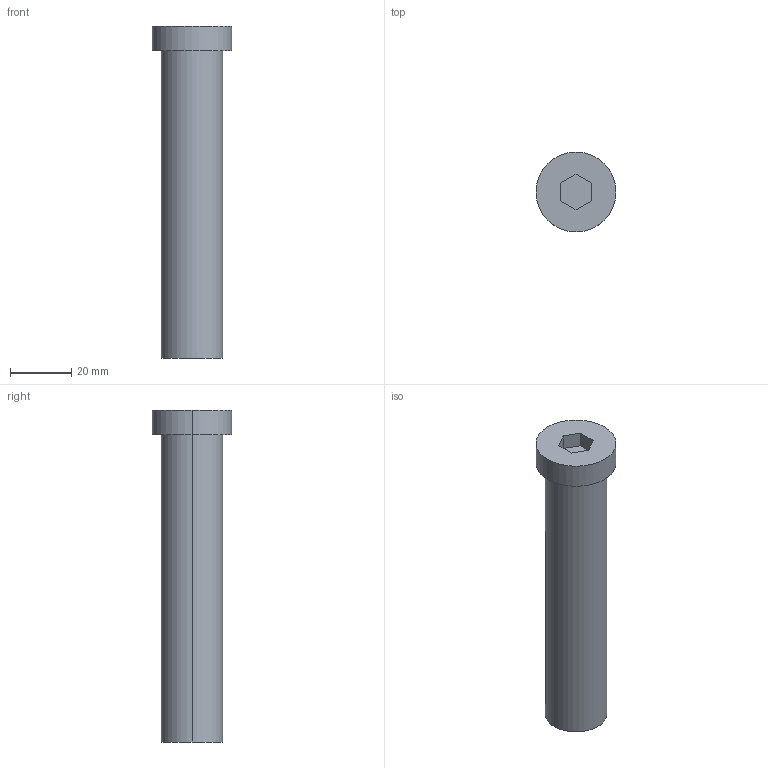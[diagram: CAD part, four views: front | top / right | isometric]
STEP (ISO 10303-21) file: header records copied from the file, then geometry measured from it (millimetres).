
FILE_DESCRIPTION (( 'STEP AP214' ), '1' );
FILE_NAME ('BruyRubio_TGH__20_x_100_-_M-12.STEP', '2019-12-22T23:37:39', ( '' ), ( '' ), 'SwSTEP 2.0', 'SolidWorks 2017', '' );
FILE_SCHEMA (( 'AUTOMOTIVE_DESIGN' ));
Length unit declared in the file: millimetre
Products named in the file (1): BruyRubio_TGH__20_x_100_-_M-12
Bounding box: 26 x 26 x 108 mm (x, y, z)
Volume: 32927.8 mm3; surface area: 11021.1 mm2
Topology: 2 solids, 2 shells, 27 faces, 58 edges, 37 vertices
Faces by surface type: plane 13, cylinder 12, cone 2
Entity records: 1070 total; most frequent: DIRECTION 136, CARTESIAN_POINT 121, ORIENTED_EDGE 112, EDGE_CURVE 56, AXIS2_PLACEMENT_3D 52, VERTEX_POINT 37, EDGE_LOOP 33, VECTOR 32
